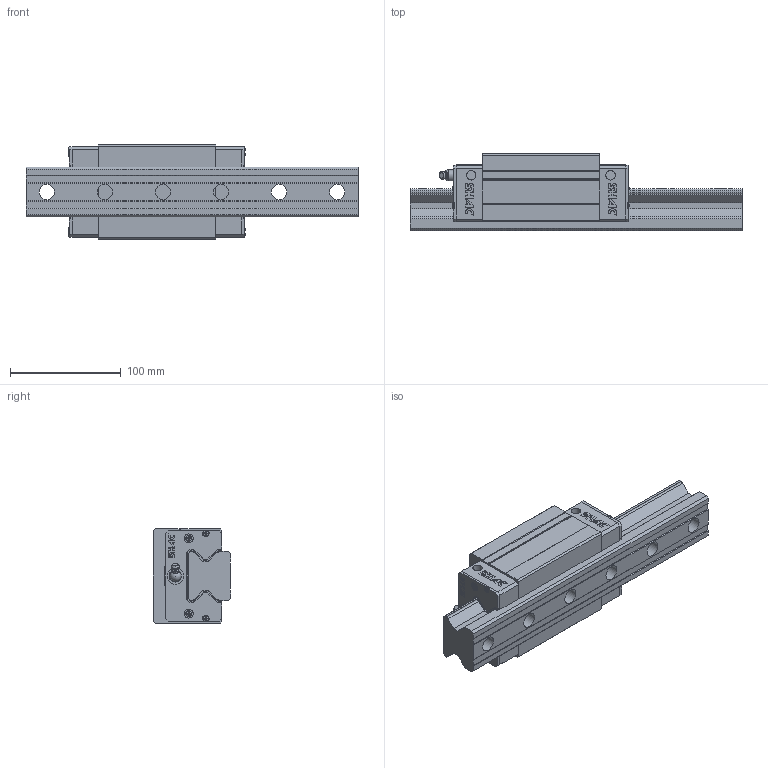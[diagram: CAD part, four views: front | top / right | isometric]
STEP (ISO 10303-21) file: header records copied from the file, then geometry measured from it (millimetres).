
FILE_DESCRIPTION( ( 'STEP AP214' ), '1' );
FILE_NAME( 'F:/品牌/SHAC 台湾鼎翰传动科技有限公司/3D滑块/GRH45CA1R300Z0CRC-18.75_18.75_1_1__.stp', '2025-04-21T22:52:42', ( 'License CC BY-ND 4.0' ), ( 'CADENAS' ), ' ', 'PARTsolutions', ' ' );
FILE_SCHEMA( ( 'AUTOMOTIVE_DESIGN { 1 0 10303 214 1 1 1 1 }' ) );
Length unit declared in the file: millimetre
Products named in the file (8): GRH45CA1R300Z0CRC-18.75/18.75(1_1_); _GR45R300-18.75/18.75(1)_RAIL; _GRH45CA_slider; _GRH45_C; _GRH45_P; _GR45_SCREW; _GH45_BOLT; _GH45-_G
Assembly tree (16 placements, depth 2):
  GRH45CA1R300Z0CRC-18.75/18.75(1_1_)
    _GR45R300-18.75/18.75(1)_RAIL
    _GRH45CA_slider
    _GRH45_C  x2
    _GRH45_P  x2
    _GR45_SCREW  x8
    _GH45_BOLT
    _GH45-_G
Bounding box: 300 x 70 x 86 mm (x, y, z)
Volume: 973701.7 mm3; surface area: 163700.3 mm2
Topology: 16 solids, 16 shells, 891 faces, 2362 edges, 1557 vertices
Faces by surface type: plane 722, cylinder 126, cone 24, sphere 9, torus 9, bspline 1
Full cylindrical faces by diameter (mm): 3.3 x4, 4.4 x4, 4.5 x1, 5.3 x8, 8 x4, 8.376 x6, 8.5 x4, 8.8 x2, 10 x2, 10.5 x2, 10.6 x2, 14 x6, 15 x2, 20 x6
Entity records: 19671 total; most frequent: CARTESIAN_POINT 2880, ORIENTED_EDGE 2564, DIRECTION 2510, EDGE_CURVE 1282, LINE 1044, VECTOR 1044, VERTEX_POINT 875, AXIS2_PLACEMENT_3D 733
